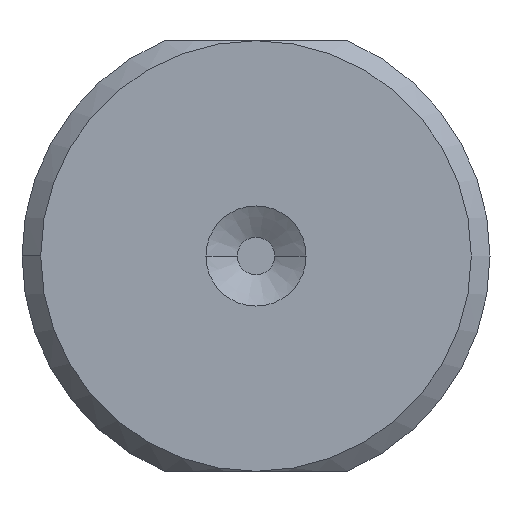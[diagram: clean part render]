
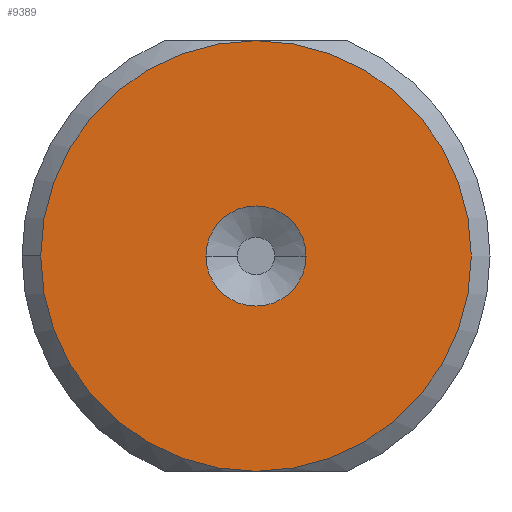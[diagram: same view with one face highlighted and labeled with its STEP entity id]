
A CAD part, front view. The second image highlights one B-rep face of the part: STEP entity #9389.
In plain terms, the highlighted planar face has unit normal (0, -1, 0).
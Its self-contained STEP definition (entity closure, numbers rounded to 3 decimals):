
#543 = EDGE_LOOP ( 'NONE', ( #6977, #826, #6183 ) ) ;
#577 = AXIS2_PLACEMENT_3D ( 'NONE', #6373, #3883, #8051 ) ;
#756 = FACE_BOUND ( 'NONE', #8313, .T. ) ;
#782 = AXIS2_PLACEMENT_3D ( 'NONE', #2837, #9400, #2024 ) ;
#804 = DIRECTION ( 'NONE',  ( 0., 0., -1. ) ) ;
#826 = ORIENTED_EDGE ( 'NONE', *, *, #3680, .T. ) ;
#1330 = VERTEX_POINT ( 'NONE', #8564 ) ;
#1571 = CARTESIAN_POINT ( 'NONE',  ( 0., -58., 0. ) ) ;
#1727 = DIRECTION ( 'NONE',  ( 0., 0., -1. ) ) ;
#2024 = DIRECTION ( 'NONE',  ( 0., 0., -1. ) ) ;
#2350 = CARTESIAN_POINT ( 'NONE',  ( -23., -58., 0. ) ) ;
#2372 = FACE_OUTER_BOUND ( 'NONE', #543, .T. ) ;
#2778 = AXIS2_PLACEMENT_3D ( 'NONE', #4253, #8351, #1727 ) ;
#2837 = CARTESIAN_POINT ( 'NONE',  ( 0., -58., 0. ) ) ;
#2993 = CIRCLE ( 'NONE', #782, 5.35 ) ;
#3007 = CIRCLE ( 'NONE', #4387, 5.35 ) ;
#3434 = DIRECTION ( 'NONE',  ( 0., 0., -1. ) ) ;
#3680 = EDGE_CURVE ( 'NONE', #10479, #1330, #8969, .T. ) ;
#3883 = DIRECTION ( 'NONE',  ( 0., -1., 0. ) ) ;
#4149 = DIRECTION ( 'NONE',  ( 0., -1., 0. ) ) ;
#4253 = CARTESIAN_POINT ( 'NONE',  ( 0., -58., 0. ) ) ;
#4322 = AXIS2_PLACEMENT_3D ( 'NONE', #10111, #4404, #3434 ) ;
#4387 = AXIS2_PLACEMENT_3D ( 'NONE', #1571, #4149, #6532 ) ;
#4404 = DIRECTION ( 'NONE',  ( 0., -1., 0. ) ) ;
#4432 = VERTEX_POINT ( 'NONE', #2350 ) ;
#4893 = DIRECTION ( 'NONE',  ( 0., -1., 0. ) ) ;
#4926 = EDGE_CURVE ( 'NONE', #1330, #4432, #9345, .T. ) ;
#5310 = VERTEX_POINT ( 'NONE', #9513 ) ;
#5697 = CARTESIAN_POINT ( 'NONE',  ( 23., -58., 0. ) ) ;
#5765 = CARTESIAN_POINT ( 'NONE',  ( 0., -58., 5.35 ) ) ;
#6183 = ORIENTED_EDGE ( 'NONE', *, *, #4926, .T. ) ;
#6373 = CARTESIAN_POINT ( 'NONE',  ( 0., -58., 0. ) ) ;
#6532 = DIRECTION ( 'NONE',  ( 0., 0., -1. ) ) ;
#6910 = EDGE_CURVE ( 'NONE', #4432, #10479, #7591, .T. ) ;
#6977 = ORIENTED_EDGE ( 'NONE', *, *, #6910, .T. ) ;
#7167 = CARTESIAN_POINT ( 'NONE',  ( 23., -58., 0. ) ) ;
#7193 = ORIENTED_EDGE ( 'NONE', *, *, #8893, .F. ) ;
#7339 = ORIENTED_EDGE ( 'NONE', *, *, #8412, .F. ) ;
#7342 = AXIS2_PLACEMENT_3D ( 'NONE', #5697, #4893, #804 ) ;
#7591 = CIRCLE ( 'NONE', #2778, 23. ) ;
#8051 = DIRECTION ( 'NONE',  ( 0., 0., -1. ) ) ;
#8076 = PLANE ( 'NONE',  #7342 ) ;
#8313 = EDGE_LOOP ( 'NONE', ( #7193, #7339 ) ) ;
#8351 = DIRECTION ( 'NONE',  ( 0., -1., 0. ) ) ;
#8412 = EDGE_CURVE ( 'NONE', #8868, #5310, #2993, .T. ) ;
#8564 = CARTESIAN_POINT ( 'NONE',  ( 0., -58., 23. ) ) ;
#8868 = VERTEX_POINT ( 'NONE', #5765 ) ;
#8893 = EDGE_CURVE ( 'NONE', #5310, #8868, #3007, .T. ) ;
#8969 = CIRCLE ( 'NONE', #4322, 23. ) ;
#9345 = CIRCLE ( 'NONE', #577, 23. ) ;
#9389 = ADVANCED_FACE ( 'NONE', ( #2372, #756 ), #8076, .T. ) ;
#9400 = DIRECTION ( 'NONE',  ( 0., -1., 0. ) ) ;
#9513 = CARTESIAN_POINT ( 'NONE',  ( 0., -58., -5.35 ) ) ;
#10111 = CARTESIAN_POINT ( 'NONE',  ( 0., -58., 0. ) ) ;
#10479 = VERTEX_POINT ( 'NONE', #7167 ) ;
